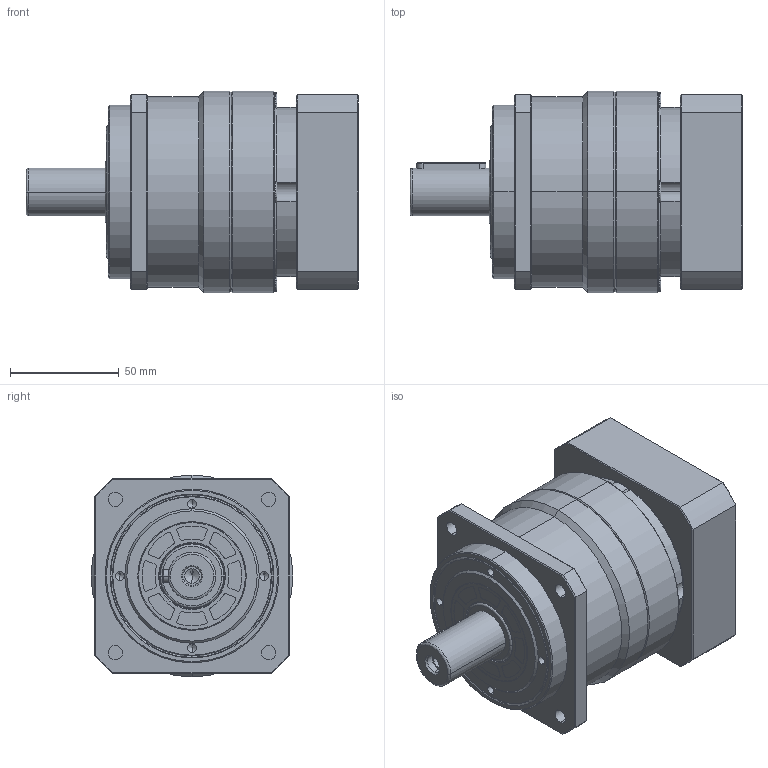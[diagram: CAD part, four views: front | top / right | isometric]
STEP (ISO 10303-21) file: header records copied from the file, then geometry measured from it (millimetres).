
FILE_DESCRIPTION (( 'STEP AP214' ), '1' );
FILE_NAME ('VRB-090-L1-S2-P1 19-70-90-M5.STEP', '2023-10-20T03:56:33', ( '微软用户' ), ( '微软中国' ), 'SwSTEP 2.0', 'SolidWorks 2018', '' );
FILE_SCHEMA (( 'AUTOMOTIVE_DESIGN' ));
Length unit declared in the file: millimetre
Products named in the file (16): PAB-090一级整体太阳轮D19外形图; 萇儂楊擘PAB-090 D70-M5-90F90H28.5; hexagon socket head cap screws gb_GB_FASTENER_SCREWS_HSHCS M6X20-N; hexagon socket head cap screws gb_GB_FASTENER_SCREWS_HSHCS M6X25-N; plain parallel keys_GB_CONNECTING_PIECE_KEYS_CSK 6X32; 標杶PAB-090 D19; hexagon socket head cap screws gb_GB_FASTENER_SCREWS_HSHCS M5X20-N; VRB-090怀堤粣俋倛芞; spring lock washers--normal type gb_GB_FASTENER_WASHER_SW 5; VRB-090坶踡蹟譫M75X1.5; hex socket set screws with flat point gb_GB_FASTENER_SCREWS_HSFP M12X12-N; 蚐猾30X50X7; spring lock washers--normal type gb_GB_FASTENER_WASHER_SW 6; VRB-090一级齿圈外形图; VRB-090笢潔楊擘俋倛芞; VRB-090-L1-S2-P1 19-70-90-M5
Assembly tree (31 placements, depth 2):
  VRB-090-L1-S2-P1 19-70-90-M5
    VRB-090一级齿圈外形图
    PAB-090一级整体太阳轮D19外形图
    VRB-090怀堤粣俋倛芞
    VRB-090笢潔楊擘俋倛芞
    萇儂楊擘PAB-090 D70-M5-90F90H28.5
    spring lock washers--normal type gb_GB_FASTENER_WASHER_SW 6  x4
    hexagon socket head cap screws gb_GB_FASTENER_SCREWS_HSHCS M6X25-N  x4
    標杶PAB-090 D19
    hexagon socket head cap screws gb_GB_FASTENER_SCREWS_HSHCS M6X20-N
    spring lock washers--normal type gb_GB_FASTENER_WASHER_SW 5  x6
    hexagon socket head cap screws gb_GB_FASTENER_SCREWS_HSHCS M5X20-N  x6
    hex socket set screws with flat point gb_GB_FASTENER_SCREWS_HSFP M12X12-N
    VRB-090坶踡蹟譫M75X1.5
    蚐猾30X50X7
    plain parallel keys_GB_CONNECTING_PIECE_KEYS_CSK 6X32
Bounding box: 153 x 93 x 93 mm (x, y, z)
Volume: 629336.1 mm3; surface area: 134154.8 mm2
Topology: 31 solids, 31 shells, 918 faces, 2238 edges, 1386 vertices
Faces by surface type: plane 358, cylinder 341, cone 179, bspline 40
Entity records: 20319 total; most frequent: CARTESIAN_POINT 4229, DIRECTION 3443, ORIENTED_EDGE 3092, EDGE_CURVE 1546, AXIS2_PLACEMENT_3D 1388, VERTEX_POINT 988, CIRCLE 740, EDGE_LOOP 730
